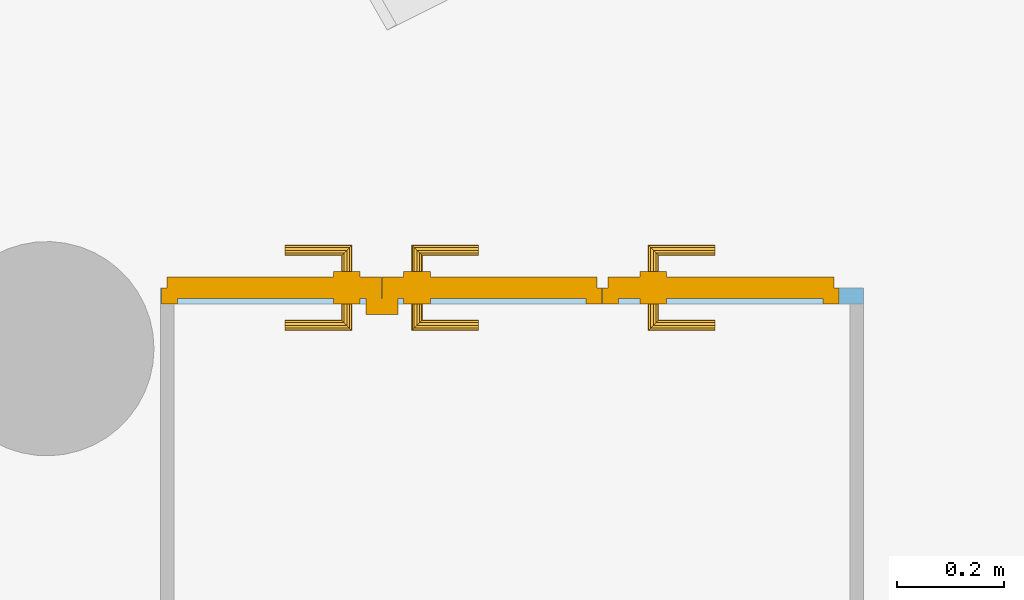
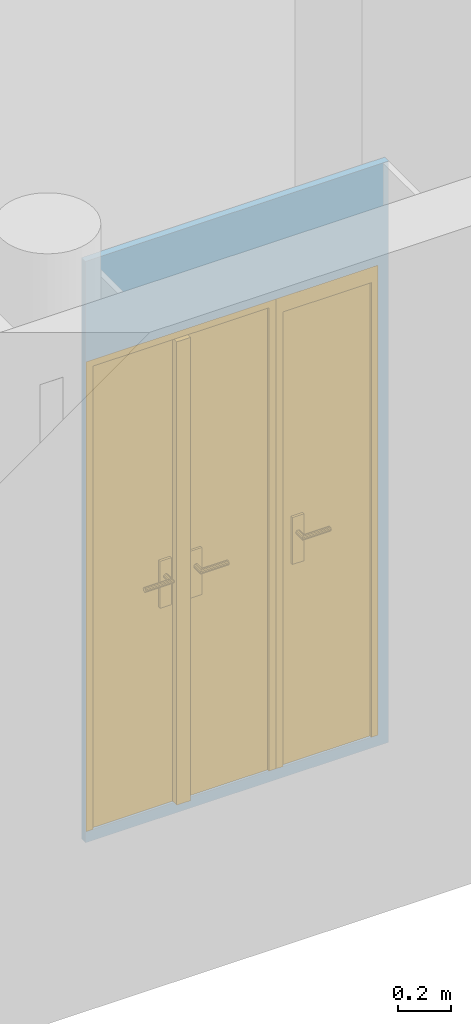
"""IFC4 building model written with IfcOpenShell, lengths in metres."""

from ifc_helpers import new_model, entity, si_unit, converted_unit, derived_unit, frame, frame_2d, origin, origin_with_axes, place, context, subcontext, project, spatial, polyline, rectangle, outline, extrude, faceted_brep, source, transform, mapped, material, layer, layer_set, layer_usage, element, fill, save


model = new_model("IFC4")

# Units and contexts
model_context = context("Model", 3, precision=1e-05, world=origin())
body_context = subcontext(model_context, "Body", "Model", "MODEL_VIEW")
ifc_project = project(units=[si_unit("LENGTHUNIT", "METRE"), si_unit("AREAUNIT", "SQUARE_METRE"), si_unit("VOLUMEUNIT", "CUBIC_METRE"), si_unit("MASSUNIT", "GRAM", prefix="KILO"), converted_unit("PLANEANGLEUNIT", "DEGREE", entity("IfcPlaneAngleMeasure", 0.0174532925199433), si_unit("PLANEANGLEUNIT", "RADIAN"), dimensions=[0, 0, 0, 0, 0, 0, 0]), derived_unit("THERMALTRANSMITTANCEUNIT", [(si_unit("POWERUNIT", "WATT"), 1), (si_unit("THERMODYNAMICTEMPERATUREUNIT", "KELVIN"), -1), (si_unit("LENGTHUNIT", "METRE"), -2)]), derived_unit("VOLUMETRICFLOWRATEUNIT", [(si_unit("LENGTHUNIT", "METRE"), 3), (converted_unit("TIMEUNIT", "hour", entity("IfcTimeMeasure", 3600.0), si_unit("TIMEUNIT", "SECOND"), dimensions=[0, 0, 1, 0, 0, 0, 0]), -1), (si_unit("LENGTHUNIT", "METRE"), -1)])], contexts=[model_context])

# Building, storeys
building_placement = place(None, origin())
building = spatial("IfcBuilding", under=ifc_project, at=building_placement, Name="HABITATGE PLURIFAMILIAR", CompositionType="ELEMENT")
storey_1_placement = place(building_placement, frame((0.0, 0.0, 9.26)))
storey_1 = spatial("IfcBuildingStorey", under=building, at=storey_1_placement, Name="PLANTA SEGONA", CompositionType="ELEMENT", Elevation=9.26)
storey_2_placement = place(storey_1_placement, frame((0.0, 0.0, 6.25)))
storey_2 = spatial("IfcBuildingStorey", under=storey_1, at=storey_2_placement, Name="NOU", CompositionType="PARTIAL")

# Wall, openings, doors
ifc_material = material()
ifc_layer = layer(ifc_material, 0.03)
ifc_layer_set = layer_set([ifc_layer])
ifc_layer_usage = layer_usage(ifc_layer_set, "AXIS2", "POSITIVE", 0.0)
wall_placement = place(storey_2_placement, frame((407.361610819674, 13.7631365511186, -6.3), z_axis=(0.0, 0.0, 1.0), x_axis=(-1.0, 0.0, 0.0)))
wall = element("IfcWall", 1, at=wall_placement, inside=storey_2, material=ifc_layer_usage, Name="Evans PA", context=body_context, shape_type="SweptSolid", body=[
    extrude(rectangle(XDim=1.31229787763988, YDim=0.03, at=frame_2d((0.656148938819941, 0.015), x_axis=(1.0, 0.0))), origin_with_axes(), (0.0, 0.0, 1.0), 2.66),
])
opening_1_placement = place(wall_placement, frame((0.0452878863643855, 0.0, 0.05), z_axis=(0.0, 1.0, 0.0), x_axis=(0.0, 0.0, 1.0)))
opening_1 = element("IfcOpeningElement", 2, at=opening_1_placement, cuts=wall, Name="Vano de puerta PA", ObjectType="Opening", context=body_context, shape_type="SweptSolid", body=[
    extrude(outline(polyline([(2.15, 0.441930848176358), (2.15, 0.0), (0.0, 0.0), (0.0, 0.441930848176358), (2.15, 0.441930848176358)])), origin_with_axes(), (0.0, 0.0, 1.0), 0.03),
])
opening_2_placement = place(wall_placement, frame((0.487834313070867, 0.0, 0.05), z_axis=(0.0, 1.0, 0.0), x_axis=(0.0, 0.0, 1.0)))
opening_2 = element("IfcOpeningElement", 3, at=opening_2_placement, cuts=wall, Name="Vano de puerta PA", ObjectType="Opening", context=body_context, shape_type="SweptSolid", body=[
    extrude(outline(polyline([(2.15, 0.822674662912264), (2.15, 0.0), (0.0, 0.0), (0.0, 0.822674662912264), (2.15, 0.822674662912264)])), origin_with_axes(), (0.0, 0.0, 1.0), 0.03),
])
shared_shape_1 = source(origin_with_axes(), body_context, "Body", "Brep", [
    faceted_brep([(0.0, 0.03, 2.15), (0.0, 0.03, 0.0), (0.03, 0.03, 0.0), (0.03, 0.03, 2.15), (0.0, 0.0, 0.0), (0.0, 0.0, 2.15), (0.03, 0.0, 2.15), (0.03, 0.0, 0.0)], [[[0, 1, 2, 3]], [[4, 5, 6, 7]], [[1, 0, 5, 4]], [[2, 1, 4, 7]], [[3, 2, 7, 6]], [[0, 3, 6, 5]]], orient=[[False], [False], [False], [False], [False], [False]]),
    faceted_brep([(0.411930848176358, 0.03, 2.15), (0.411930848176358, 0.03, 0.0), (0.441930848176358, 0.03, 0.0), (0.441930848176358, 0.03, 2.15), (0.411930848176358, 0.0, 0.0), (0.411930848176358, 0.0, 2.15), (0.441930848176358, 0.0, 2.15), (0.441930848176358, 0.0, 0.0)], [[[0, 1, 2, 3]], [[4, 5, 6, 7]], [[1, 0, 5, 4]], [[2, 1, 4, 7]], [[3, 2, 7, 6]], [[0, 3, 6, 5]]], orient=[[False], [False], [False], [False], [False], [False]]),
    faceted_brep([(0.03, 0.03, 2.15), (0.03, 0.03, 2.08), (0.411930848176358, 0.03, 2.08), (0.411930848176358, 0.03, 2.15), (0.03, 0.0, 2.08), (0.03, 0.0, 2.15), (0.411930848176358, 0.0, 2.15), (0.411930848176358, 0.0, 2.08)], [[[0, 1, 2, 3]], [[4, 5, 6, 7]], [[1, 0, 5, 4]], [[2, 1, 4, 7]], [[3, 2, 7, 6]], [[0, 3, 6, 5]]], orient=[[False], [False], [False], [False], [False], [False]]),
    faceted_brep([(0.01, 0.05, 2.1), (0.01, 0.05, 0.0), (0.431930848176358, 0.05, 0.0), (0.431930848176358, 0.05, 2.1), (0.01, 0.01, 0.0), (0.01, 0.01, 2.1), (0.431930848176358, 0.01, 2.1), (0.431930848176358, 0.01, 0.0)], [[[0, 1, 2, 3]], [[4, 5, 6, 7]], [[1, 0, 5, 4]], [[2, 1, 4, 7]], [[3, 2, 7, 6]], [[0, 3, 6, 5]]], orient=[[False], [False], [False], [False], [False], [False]]),
    faceted_brep([(0.0700000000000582, 0.01, 1.125), (0.0700000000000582, 0.01, 0.91), (0.120000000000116, 0.01, 0.91), (0.120000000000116, 0.01, 1.125), (0.0700000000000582, 0.0, 0.91), (0.0700000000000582, 0.0, 1.125), (0.120000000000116, 0.0, 1.125), (0.120000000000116, 0.0, 0.91)], [[[0, 1, 2, 3]], [[4, 5, 6, 7]], [[1, 0, 5, 4]], [[2, 1, 4, 7]], [[3, 2, 7, 6]], [[0, 3, 6, 5]]], orient=[[False], [False], [False], [False], [False], [False]]),
    faceted_brep([(0.0950000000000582, 0.0, 1.06), (0.0900000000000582, 0.0, 1.05866025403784), (0.0863397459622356, 0.0, 1.055), (0.0850000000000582, 0.0, 1.05), (0.0863397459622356, 0.0, 1.045), (0.0900000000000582, 0.0, 1.04133974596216), (0.0950000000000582, 0.0, 1.04), (0.100000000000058, 0.0, 1.04133974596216), (0.103660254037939, 0.0, 1.045), (0.105000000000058, 0.0, 1.05), (0.103660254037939, 0.0, 1.055), (0.100000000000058, 0.0, 1.05866025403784), (0.0950000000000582, -0.04, 1.06), (0.0900000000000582, -0.045, 1.05866025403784), (0.0863397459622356, -0.0486602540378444, 1.055), (0.0850000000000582, -0.05, 1.05), (0.0863397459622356, -0.0486602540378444, 1.045), (0.0900000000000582, -0.045, 1.04133974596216), (0.0950000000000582, -0.04, 1.04), (0.100000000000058, -0.035, 1.04133974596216), (0.103660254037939, -0.0313397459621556, 1.045), (0.105000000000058, -0.03, 1.05), (0.103660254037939, -0.0313397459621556, 1.055), (0.100000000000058, -0.035, 1.05866025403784), (0.210000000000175, -0.04, 1.06), (0.210000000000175, -0.035, 1.05866025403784), (0.210000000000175, -0.0313397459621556, 1.055), (0.210000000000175, -0.03, 1.05), (0.210000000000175, -0.0313397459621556, 1.045), (0.210000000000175, -0.035, 1.04133974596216), (0.210000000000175, -0.04, 1.04), (0.210000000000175, -0.045, 1.04133974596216), (0.210000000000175, -0.0486602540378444, 1.045), (0.210000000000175, -0.05, 1.05), (0.210000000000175, -0.0486602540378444, 1.055), (0.210000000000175, -0.045, 1.05866025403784)], [[[0, 1, 2, 3, 4, 5, 6, 7, 8, 9, 10, 11]], [[0, 12, 13, 1]], [[1, 13, 14, 2]], [[2, 14, 15, 3]], [[3, 15, 16, 4]], [[4, 16, 17, 5]], [[5, 17, 18, 6]], [[6, 18, 19, 7]], [[7, 19, 20, 8]], [[8, 20, 21, 9]], [[9, 21, 22, 10]], [[10, 22, 23, 11]], [[11, 23, 12, 0]], [[24, 25, 26, 27, 28, 29, 30, 31, 32, 33, 34, 35]], [[12, 24, 35, 13]], [[13, 35, 34, 14]], [[14, 34, 33, 15]], [[15, 33, 32, 16]], [[16, 32, 31, 17]], [[17, 31, 30, 18]], [[18, 30, 29, 19]], [[19, 29, 28, 20]], [[20, 28, 27, 21]], [[21, 27, 26, 22]], [[22, 26, 25, 23]], [[23, 25, 24, 12]]], orient=[[False], [False], [False], [False], [False], [False], [False], [False], [False], [False], [False], [False], [False], [False], [False], [False], [False], [False], [False], [False], [False], [False], [False], [False], [False], [False]]),
    faceted_brep([(0.0700000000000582, 0.05, 1.125), (0.120000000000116, 0.05, 1.125), (0.120000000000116, 0.05, 0.91), (0.0700000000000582, 0.05, 0.91), (0.0700000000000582, 0.06, 0.91), (0.120000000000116, 0.06, 0.91), (0.120000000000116, 0.06, 1.125), (0.0700000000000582, 0.06, 1.125)], [[[0, 1, 2, 3]], [[4, 5, 6, 7]], [[3, 4, 7, 0]], [[2, 5, 4, 3]], [[1, 6, 5, 2]], [[0, 7, 6, 1]]], orient=[[False], [False], [False], [False], [False], [False]]),
    faceted_brep([(0.0950000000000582, 0.06, 1.06), (0.100000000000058, 0.06, 1.05866025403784), (0.103660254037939, 0.06, 1.055), (0.105000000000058, 0.06, 1.05), (0.103660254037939, 0.06, 1.045), (0.100000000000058, 0.06, 1.04133974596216), (0.0950000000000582, 0.06, 1.04), (0.0900000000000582, 0.06, 1.04133974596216), (0.0863397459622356, 0.06, 1.045), (0.0850000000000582, 0.06, 1.05), (0.0863397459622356, 0.06, 1.055), (0.0900000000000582, 0.06, 1.05866025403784), (0.0900000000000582, 0.105, 1.05866025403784), (0.0950000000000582, 0.1, 1.06), (0.0863397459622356, 0.108660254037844, 1.055), (0.0850000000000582, 0.11, 1.05), (0.0863397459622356, 0.108660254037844, 1.045), (0.0900000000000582, 0.105, 1.04133974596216), (0.0950000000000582, 0.1, 1.04), (0.100000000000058, 0.095, 1.04133974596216), (0.103660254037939, 0.0913397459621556, 1.045), (0.105000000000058, 0.09, 1.05), (0.103660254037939, 0.0913397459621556, 1.055), (0.100000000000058, 0.095, 1.05866025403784), (0.210000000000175, 0.1, 1.06), (0.210000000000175, 0.105, 1.05866025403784), (0.210000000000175, 0.108660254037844, 1.055), (0.210000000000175, 0.11, 1.05), (0.210000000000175, 0.108660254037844, 1.045), (0.210000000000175, 0.105, 1.04133974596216), (0.210000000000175, 0.1, 1.04), (0.210000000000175, 0.095, 1.04133974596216), (0.210000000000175, 0.0913397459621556, 1.045), (0.210000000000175, 0.09, 1.05), (0.210000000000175, 0.0913397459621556, 1.055), (0.210000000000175, 0.095, 1.05866025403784)], [[[0, 1, 2, 3, 4, 5, 6, 7, 8, 9, 10, 11]], [[0, 11, 12, 13]], [[11, 10, 14, 12]], [[10, 9, 15, 14]], [[9, 8, 16, 15]], [[8, 7, 17, 16]], [[7, 6, 18, 17]], [[6, 5, 19, 18]], [[5, 4, 20, 19]], [[4, 3, 21, 20]], [[3, 2, 22, 21]], [[2, 1, 23, 22]], [[1, 0, 13, 23]], [[24, 25, 26, 27, 28, 29, 30, 31, 32, 33, 34, 35]], [[13, 12, 25, 24]], [[12, 14, 26, 25]], [[14, 15, 27, 26]], [[15, 16, 28, 27]], [[16, 17, 29, 28]], [[17, 18, 30, 29]], [[18, 19, 31, 30]], [[19, 20, 32, 31]], [[20, 21, 33, 32]], [[21, 22, 34, 33]], [[22, 23, 35, 34]], [[23, 13, 24, 35]]], orient=[[False], [False], [False], [False], [False], [False], [False], [False], [False], [False], [False], [False], [False], [False], [False], [False], [False], [False], [False], [False], [False], [False], [False], [False], [False], [False]]),
])
door_1_placement = place(opening_1_placement, frame((0.0, 0.441930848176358, 0.03), z_axis=(1.0, 0.0, 0.0), x_axis=(0.0, -1.0, 0.0)))
door_1 = element("IfcDoor", 4, at=door_1_placement, inside=storey_2, Name="Porta P2", OperationType="USERDEFINED", OverallHeight=2.15, OverallWidth=0.44193, PredefinedType="DOOR", context=body_context, shape_type="MappedRepresentation", body=[
    mapped(shared_shape_1, transform((0.0, 0.0, 0.0), x_axis=(1.0, 0.0, 0.0), y_axis=(0.0, 1.0, 0.0), z_axis=(0.0, 0.0, 1.0), scale=1.0)),
])
fill(opening_1, door_1)
shared_shape_2 = source(origin_with_axes(), body_context, "Body", "Brep", [
    faceted_brep([(0.822674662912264, 0.03, 2.15), (0.792674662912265, 0.03, 2.15), (0.792674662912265, 0.03, 0.0), (0.822674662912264, 0.03, 0.0), (0.822674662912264, 0.0, 0.0), (0.792674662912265, 0.0, 0.0), (0.792674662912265, 0.0, 2.15), (0.822674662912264, 0.0, 2.15)], [[[0, 1, 2, 3]], [[4, 5, 6, 7]], [[3, 4, 7, 0]], [[2, 5, 4, 3]], [[1, 6, 5, 2]], [[0, 7, 6, 1]]], orient=[[False], [False], [False], [False], [False], [False]]),
    faceted_brep([(0.03, 0.03, 2.15), (0.0, 0.03, 2.15), (0.0, 0.03, 0.0), (0.03, 0.03, 0.0), (0.03, 0.0, 0.0), (0.0, 0.0, 0.0), (0.0, 0.0, 2.15), (0.03, 0.0, 2.15)], [[[0, 1, 2, 3]], [[4, 5, 6, 7]], [[3, 4, 7, 0]], [[2, 5, 4, 3]], [[1, 6, 5, 2]], [[0, 7, 6, 1]]], orient=[[False], [False], [False], [False], [False], [False]]),
    faceted_brep([(0.792674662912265, 0.03, 2.15), (0.03, 0.03, 2.15), (0.03, 0.03, 2.12), (0.792674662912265, 0.03, 2.12), (0.792674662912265, 0.0, 2.12), (0.03, 0.0, 2.12), (0.03, 0.0, 2.15), (0.792674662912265, 0.0, 2.15)], [[[0, 1, 2, 3]], [[4, 5, 6, 7]], [[3, 4, 7, 0]], [[2, 5, 4, 3]], [[1, 6, 5, 2]], [[0, 7, 6, 1]]], orient=[[False], [False], [False], [False], [False], [False]]),
    faceted_brep([(0.812674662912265, 0.05, 2.14), (0.411837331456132, 0.05, 2.14), (0.411837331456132, 0.05, 0.0), (0.812674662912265, 0.05, 0.0), (0.812674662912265, 0.01, 0.0), (0.411837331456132, 0.01, 0.0), (0.411837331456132, 0.01, 2.14), (0.812674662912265, 0.01, 2.14)], [[[0, 1, 2, 3]], [[4, 5, 6, 7]], [[3, 4, 7, 0]], [[2, 5, 4, 3]], [[1, 6, 5, 2]], [[0, 7, 6, 1]]], orient=[[False], [False], [False], [False], [False], [False]]),
    faceted_brep([(0.441837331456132, 0.01, 2.12), (0.381837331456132, 0.01, 2.12), (0.381837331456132, 0.01, 0.0), (0.441837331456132, 0.01, 0.0), (0.441837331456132, -0.02, 0.0), (0.381837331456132, -0.02, 0.0), (0.381837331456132, -0.02, 2.12), (0.441837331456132, -0.02, 2.12)], [[[0, 1, 2, 3]], [[4, 5, 6, 7]], [[3, 4, 7, 0]], [[2, 5, 4, 3]], [[1, 6, 5, 2]], [[0, 7, 6, 1]]], orient=[[False], [False], [False], [False], [False], [False]]),
    faceted_brep([(0.50183733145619, 0.01, 1.125), (0.451837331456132, 0.01, 1.125), (0.451837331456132, 0.01, 0.91), (0.50183733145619, 0.01, 0.91), (0.50183733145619, 0.0, 0.91), (0.451837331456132, 0.0, 0.91), (0.451837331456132, 0.0, 1.125), (0.50183733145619, 0.0, 1.125)], [[[0, 1, 2, 3]], [[4, 5, 6, 7]], [[3, 4, 7, 0]], [[2, 5, 4, 3]], [[1, 6, 5, 2]], [[0, 7, 6, 1]]], orient=[[False], [False], [False], [False], [False], [False]]),
    faceted_brep([(0.476837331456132, 0.0, 1.06), (0.471837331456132, 0.0, 1.05866025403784), (0.46817707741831, 0.0, 1.055), (0.466837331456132, 0.0, 1.05), (0.46817707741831, 0.0, 1.045), (0.471837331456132, 0.0, 1.04133974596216), (0.476837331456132, 0.0, 1.04), (0.481837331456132, 0.0, 1.04133974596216), (0.485497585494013, 0.0, 1.045), (0.486837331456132, 0.0, 1.05), (0.485497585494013, 0.0, 1.055), (0.481837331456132, 0.0, 1.05866025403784), (0.476837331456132, -0.04, 1.06), (0.471837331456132, -0.045, 1.05866025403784), (0.46817707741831, -0.0486602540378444, 1.055), (0.466837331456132, -0.05, 1.05), (0.46817707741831, -0.0486602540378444, 1.045), (0.471837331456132, -0.045, 1.04133974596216), (0.476837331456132, -0.04, 1.04), (0.481837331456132, -0.035, 1.04133974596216), (0.485497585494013, -0.0313397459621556, 1.045), (0.486837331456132, -0.03, 1.05), (0.485497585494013, -0.0313397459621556, 1.055), (0.481837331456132, -0.035, 1.05866025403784), (0.59183733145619, -0.04, 1.06), (0.59183733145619, -0.035, 1.05866025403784), (0.59183733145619, -0.0313397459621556, 1.055), (0.59183733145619, -0.03, 1.05), (0.59183733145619, -0.0313397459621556, 1.045), (0.59183733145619, -0.035, 1.04133974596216), (0.59183733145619, -0.04, 1.04), (0.59183733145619, -0.045, 1.04133974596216), (0.59183733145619, -0.0486602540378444, 1.045), (0.59183733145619, -0.05, 1.05), (0.59183733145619, -0.0486602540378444, 1.055), (0.59183733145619, -0.045, 1.05866025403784)], [[[0, 1, 2, 3, 4, 5, 6, 7, 8, 9, 10, 11]], [[0, 12, 13, 1]], [[1, 13, 14, 2]], [[2, 14, 15, 3]], [[3, 15, 16, 4]], [[4, 16, 17, 5]], [[5, 17, 18, 6]], [[6, 18, 19, 7]], [[7, 19, 20, 8]], [[8, 20, 21, 9]], [[9, 21, 22, 10]], [[10, 22, 23, 11]], [[11, 23, 12, 0]], [[24, 25, 26, 27, 28, 29, 30, 31, 32, 33, 34, 35]], [[12, 24, 35, 13]], [[13, 35, 34, 14]], [[14, 34, 33, 15]], [[15, 33, 32, 16]], [[16, 32, 31, 17]], [[17, 31, 30, 18]], [[18, 30, 29, 19]], [[19, 29, 28, 20]], [[20, 28, 27, 21]], [[21, 27, 26, 22]], [[22, 26, 25, 23]], [[23, 25, 24, 12]]], orient=[[False], [False], [False], [False], [False], [False], [False], [False], [False], [False], [False], [False], [False], [False], [False], [False], [False], [False], [False], [False], [False], [False], [False], [False], [False], [False]]),
    faceted_brep([(0.50183733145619, 0.05, 1.125), (0.50183733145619, 0.05, 0.91), (0.451837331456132, 0.05, 0.91), (0.451837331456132, 0.05, 1.125), (0.50183733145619, 0.06, 0.91), (0.50183733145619, 0.06, 1.125), (0.451837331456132, 0.06, 1.125), (0.451837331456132, 0.06, 0.91)], [[[0, 1, 2, 3]], [[4, 5, 6, 7]], [[1, 0, 5, 4]], [[2, 1, 4, 7]], [[3, 2, 7, 6]], [[0, 3, 6, 5]]], orient=[[False], [False], [False], [False], [False], [False]]),
    faceted_brep([(0.476837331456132, 0.06, 1.06), (0.481837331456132, 0.06, 1.05866025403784), (0.485497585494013, 0.06, 1.055), (0.486837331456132, 0.06, 1.05), (0.485497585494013, 0.06, 1.045), (0.481837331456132, 0.06, 1.04133974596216), (0.476837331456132, 0.06, 1.04), (0.471837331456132, 0.06, 1.04133974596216), (0.46817707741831, 0.06, 1.045), (0.466837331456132, 0.06, 1.05), (0.46817707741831, 0.06, 1.055), (0.471837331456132, 0.06, 1.05866025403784), (0.471837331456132, 0.105, 1.05866025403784), (0.476837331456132, 0.1, 1.06), (0.46817707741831, 0.108660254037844, 1.055), (0.466837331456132, 0.11, 1.05), (0.46817707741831, 0.108660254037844, 1.045), (0.471837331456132, 0.105, 1.04133974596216), (0.476837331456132, 0.1, 1.04), (0.481837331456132, 0.095, 1.04133974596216), (0.485497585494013, 0.0913397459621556, 1.045), (0.486837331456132, 0.09, 1.05), (0.485497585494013, 0.0913397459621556, 1.055), (0.481837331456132, 0.095, 1.05866025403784), (0.59183733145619, 0.1, 1.06), (0.59183733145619, 0.105, 1.05866025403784), (0.59183733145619, 0.108660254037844, 1.055), (0.59183733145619, 0.11, 1.05), (0.59183733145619, 0.108660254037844, 1.045), (0.59183733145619, 0.105, 1.04133974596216), (0.59183733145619, 0.1, 1.04), (0.59183733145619, 0.095, 1.04133974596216), (0.59183733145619, 0.0913397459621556, 1.045), (0.59183733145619, 0.09, 1.05), (0.59183733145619, 0.0913397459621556, 1.055), (0.59183733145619, 0.095, 1.05866025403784)], [[[0, 1, 2, 3, 4, 5, 6, 7, 8, 9, 10, 11]], [[0, 11, 12, 13]], [[11, 10, 14, 12]], [[10, 9, 15, 14]], [[9, 8, 16, 15]], [[8, 7, 17, 16]], [[7, 6, 18, 17]], [[6, 5, 19, 18]], [[5, 4, 20, 19]], [[4, 3, 21, 20]], [[3, 2, 22, 21]], [[2, 1, 23, 22]], [[1, 0, 13, 23]], [[24, 25, 26, 27, 28, 29, 30, 31, 32, 33, 34, 35]], [[13, 12, 25, 24]], [[12, 14, 26, 25]], [[14, 15, 27, 26]], [[15, 16, 28, 27]], [[16, 17, 29, 28]], [[17, 18, 30, 29]], [[18, 19, 31, 30]], [[19, 20, 32, 31]], [[20, 21, 33, 32]], [[21, 22, 34, 33]], [[22, 23, 35, 34]], [[23, 13, 24, 35]]], orient=[[False], [False], [False], [False], [False], [False], [False], [False], [False], [False], [False], [False], [False], [False], [False], [False], [False], [False], [False], [False], [False], [False], [False], [False], [False], [False]]),
    faceted_brep([(0.410837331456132, 0.05, 2.14), (0.01, 0.05, 2.14), (0.01, 0.05, 0.0), (0.410837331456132, 0.05, 0.0), (0.410837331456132, 0.01, 0.0), (0.01, 0.01, 0.0), (0.01, 0.01, 2.14), (0.410837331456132, 0.01, 2.14)], [[[0, 1, 2, 3]], [[4, 5, 6, 7]], [[3, 4, 7, 0]], [[2, 5, 4, 3]], [[1, 6, 5, 2]], [[0, 7, 6, 1]]], orient=[[False], [False], [False], [False], [False], [False]]),
    faceted_brep([(0.370837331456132, 0.01, 1.125), (0.320837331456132, 0.01, 1.125), (0.320837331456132, 0.01, 0.91), (0.370837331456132, 0.01, 0.91), (0.370837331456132, 0.0, 0.91), (0.320837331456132, 0.0, 0.91), (0.320837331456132, 0.0, 1.125), (0.370837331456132, 0.0, 1.125)], [[[0, 1, 2, 3]], [[4, 5, 6, 7]], [[3, 4, 7, 0]], [[2, 5, 4, 3]], [[1, 6, 5, 2]], [[0, 7, 6, 1]]], orient=[[False], [False], [False], [False], [False], [False]]),
    faceted_brep([(0.345837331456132, 0.0, 1.06), (0.340837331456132, 0.0, 1.05866025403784), (0.337177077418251, 0.0, 1.055), (0.335837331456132, 0.0, 1.05), (0.337177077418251, 0.0, 1.045), (0.340837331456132, 0.0, 1.04133974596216), (0.345837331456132, 0.0, 1.04), (0.350837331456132, 0.0, 1.04133974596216), (0.354497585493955, 0.0, 1.045), (0.355837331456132, 0.0, 1.05), (0.354497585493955, 0.0, 1.055), (0.350837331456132, 0.0, 1.05866025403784), (0.350837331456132, -0.045, 1.05866025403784), (0.345837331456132, -0.04, 1.06), (0.354497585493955, -0.0486602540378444, 1.055), (0.355837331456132, -0.05, 1.05), (0.354497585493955, -0.0486602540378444, 1.045), (0.350837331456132, -0.045, 1.04133974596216), (0.345837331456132, -0.04, 1.04), (0.340837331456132, -0.035, 1.04133974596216), (0.337177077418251, -0.0313397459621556, 1.045), (0.335837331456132, -0.03, 1.05), (0.337177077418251, -0.0313397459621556, 1.055), (0.340837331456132, -0.035, 1.05866025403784), (0.230837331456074, -0.04, 1.06), (0.230837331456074, -0.045, 1.05866025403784), (0.230837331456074, -0.0486602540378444, 1.055), (0.230837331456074, -0.05, 1.05), (0.230837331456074, -0.0486602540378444, 1.045), (0.230837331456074, -0.045, 1.04133974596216), (0.230837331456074, -0.04, 1.04), (0.230837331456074, -0.035, 1.04133974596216), (0.230837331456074, -0.0313397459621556, 1.045), (0.230837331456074, -0.03, 1.05), (0.230837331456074, -0.0313397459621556, 1.055), (0.230837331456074, -0.035, 1.05866025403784)], [[[0, 1, 2, 3, 4, 5, 6, 7, 8, 9, 10, 11]], [[0, 11, 12, 13]], [[11, 10, 14, 12]], [[10, 9, 15, 14]], [[9, 8, 16, 15]], [[8, 7, 17, 16]], [[7, 6, 18, 17]], [[6, 5, 19, 18]], [[5, 4, 20, 19]], [[4, 3, 21, 20]], [[3, 2, 22, 21]], [[2, 1, 23, 22]], [[1, 0, 13, 23]], [[24, 25, 26, 27, 28, 29, 30, 31, 32, 33, 34, 35]], [[13, 12, 25, 24]], [[12, 14, 26, 25]], [[14, 15, 27, 26]], [[15, 16, 28, 27]], [[16, 17, 29, 28]], [[17, 18, 30, 29]], [[18, 19, 31, 30]], [[19, 20, 32, 31]], [[20, 21, 33, 32]], [[21, 22, 34, 33]], [[22, 23, 35, 34]], [[23, 13, 24, 35]]], orient=[[False], [False], [False], [False], [False], [False], [False], [False], [False], [False], [False], [False], [False], [False], [False], [False], [False], [False], [False], [False], [False], [False], [False], [False], [False], [False]]),
    faceted_brep([(0.370837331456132, 0.05, 1.125), (0.370837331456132, 0.05, 0.91), (0.320837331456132, 0.05, 0.91), (0.320837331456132, 0.05, 1.125), (0.370837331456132, 0.06, 0.91), (0.370837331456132, 0.06, 1.125), (0.320837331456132, 0.06, 1.125), (0.320837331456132, 0.06, 0.91)], [[[0, 1, 2, 3]], [[4, 5, 6, 7]], [[1, 0, 5, 4]], [[2, 1, 4, 7]], [[3, 2, 7, 6]], [[0, 3, 6, 5]]], orient=[[False], [False], [False], [False], [False], [False]]),
    faceted_brep([(0.345837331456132, 0.06, 1.06), (0.350837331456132, 0.06, 1.05866025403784), (0.354497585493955, 0.06, 1.055), (0.355837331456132, 0.06, 1.05), (0.354497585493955, 0.06, 1.045), (0.350837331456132, 0.06, 1.04133974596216), (0.345837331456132, 0.06, 1.04), (0.340837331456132, 0.06, 1.04133974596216), (0.337177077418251, 0.06, 1.045), (0.335837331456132, 0.06, 1.05), (0.337177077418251, 0.06, 1.055), (0.340837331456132, 0.06, 1.05866025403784), (0.345837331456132, 0.1, 1.06), (0.350837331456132, 0.105, 1.05866025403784), (0.354497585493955, 0.108660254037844, 1.055), (0.355837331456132, 0.11, 1.05), (0.354497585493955, 0.108660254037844, 1.045), (0.350837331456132, 0.105, 1.04133974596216), (0.345837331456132, 0.1, 1.04), (0.340837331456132, 0.095, 1.04133974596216), (0.337177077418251, 0.0913397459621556, 1.045), (0.335837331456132, 0.09, 1.05), (0.337177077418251, 0.0913397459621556, 1.055), (0.340837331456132, 0.095, 1.05866025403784), (0.230837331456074, 0.1, 1.06), (0.230837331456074, 0.095, 1.05866025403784), (0.230837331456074, 0.0913397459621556, 1.055), (0.230837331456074, 0.09, 1.05), (0.230837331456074, 0.0913397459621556, 1.045), (0.230837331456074, 0.095, 1.04133974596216), (0.230837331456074, 0.1, 1.04), (0.230837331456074, 0.105, 1.04133974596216), (0.230837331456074, 0.108660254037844, 1.045), (0.230837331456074, 0.11, 1.05), (0.230837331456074, 0.108660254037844, 1.055), (0.230837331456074, 0.105, 1.05866025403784)], [[[0, 1, 2, 3, 4, 5, 6, 7, 8, 9, 10, 11]], [[0, 12, 13, 1]], [[1, 13, 14, 2]], [[2, 14, 15, 3]], [[3, 15, 16, 4]], [[4, 16, 17, 5]], [[5, 17, 18, 6]], [[6, 18, 19, 7]], [[7, 19, 20, 8]], [[8, 20, 21, 9]], [[9, 21, 22, 10]], [[10, 22, 23, 11]], [[11, 23, 12, 0]], [[24, 25, 26, 27, 28, 29, 30, 31, 32, 33, 34, 35]], [[12, 24, 35, 13]], [[13, 35, 34, 14]], [[14, 34, 33, 15]], [[15, 33, 32, 16]], [[16, 32, 31, 17]], [[17, 31, 30, 18]], [[18, 30, 29, 19]], [[19, 29, 28, 20]], [[20, 28, 27, 21]], [[21, 27, 26, 22]], [[22, 26, 25, 23]], [[23, 25, 24, 12]]], orient=[[False], [False], [False], [False], [False], [False], [False], [False], [False], [False], [False], [False], [False], [False], [False], [False], [False], [False], [False], [False], [False], [False], [False], [False], [False], [False]]),
])
door_2_placement = place(opening_2_placement, frame((0.0, 0.822674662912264, 0.03), z_axis=(1.0, 0.0, 0.0), x_axis=(0.0, -1.0, 0.0)))
door_2 = element("IfcDoor", 5, at=door_2_placement, inside=storey_2, Name="Porta PA", OperationType="USERDEFINED", OverallHeight=2.15, OverallWidth=0.82267, PredefinedType="DOOR", context=body_context, shape_type="MappedRepresentation", body=[
    mapped(shared_shape_2, transform((0.0, 0.0, 0.0), x_axis=(1.0, 0.0, 0.0), y_axis=(0.0, 1.0, 0.0), z_axis=(0.0, 0.0, 1.0), scale=1.0)),
])
fill(opening_2, door_2)

save(model, "model.ifc")
